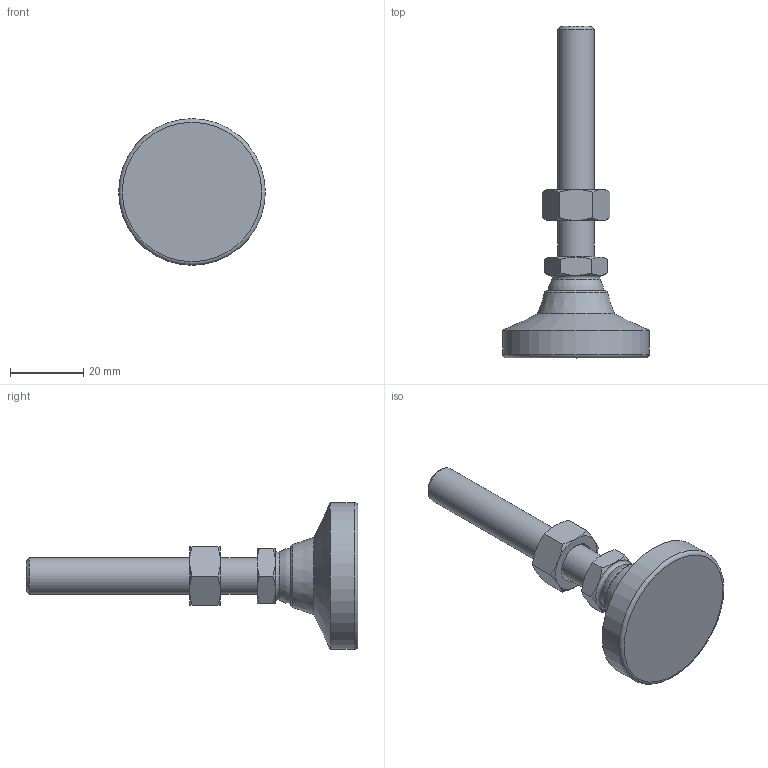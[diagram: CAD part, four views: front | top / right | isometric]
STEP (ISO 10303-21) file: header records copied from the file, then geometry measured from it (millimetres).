
FILE_DESCRIPTION( ( 'STEP AP214' ), ' ' );
FILE_NAME( 'O:/ganter_2015/teil_2/2_5/gn343_2/gn343_2_ks/Levelling foot with threaded stud GN 343.2-40-M10-63-KS-(0).stp', '2015-10-26T09:10:07', ( '' ), ( '' ), ' ', 'PARTsolutions', ' ' );
FILE_SCHEMA( ( 'AUTOMOTIVE_DESIGN { 1 0 10303 214 1 1 1 1 }' ) );
Length unit declared in the file: millimetre
Products named in the file (4): Levelling foot with threaded stud GN 343.2-40-M10-63-KS-(0); _Levelling foot with threaded stud GN 343.2-40-M10-63-KS-(0)_foot; _Gelenkfuss mit Schraube GN 343.2-40-M10-63-KS-(0)_screw; _GLevelling foot with threaded stud GN 343.2-40-M10-63-KS-(0)_nut
Assembly tree (3 placements, depth 2):
  Levelling foot with threaded stud GN 343.2-40-M10-63-KS-(0)
    _Levelling foot with threaded stud GN 343.2-40-M10-63-KS-(0)_foot
    _Gelenkfuss mit Schraube GN 343.2-40-M10-63-KS-(0)_screw
    _GLevelling foot with threaded stud GN 343.2-40-M10-63-KS-(0)_nut
Bounding box: 40 x 90.5 x 40 mm (x, y, z)
Volume: 22494 mm3; surface area: 8046.5 mm2
Topology: 3 solids, 3 shells, 50 faces, 107 edges, 63 vertices
Faces by surface type: cone 24, plane 18, torus 3, cylinder 3, sphere 2
Full cylindrical faces by diameter (mm): 8.376 x1, 10 x1, 40 x1
Entity records: 1874 total; most frequent: CARTESIAN_POINT 468, DIRECTION 188, ORIENTED_EDGE 176, AXIS2_PLACEMENT_3D 88, EDGE_CURVE 88, EDGE_LOOP 66, VERTEX_POINT 60, FACE_OUTER_BOUND 56
